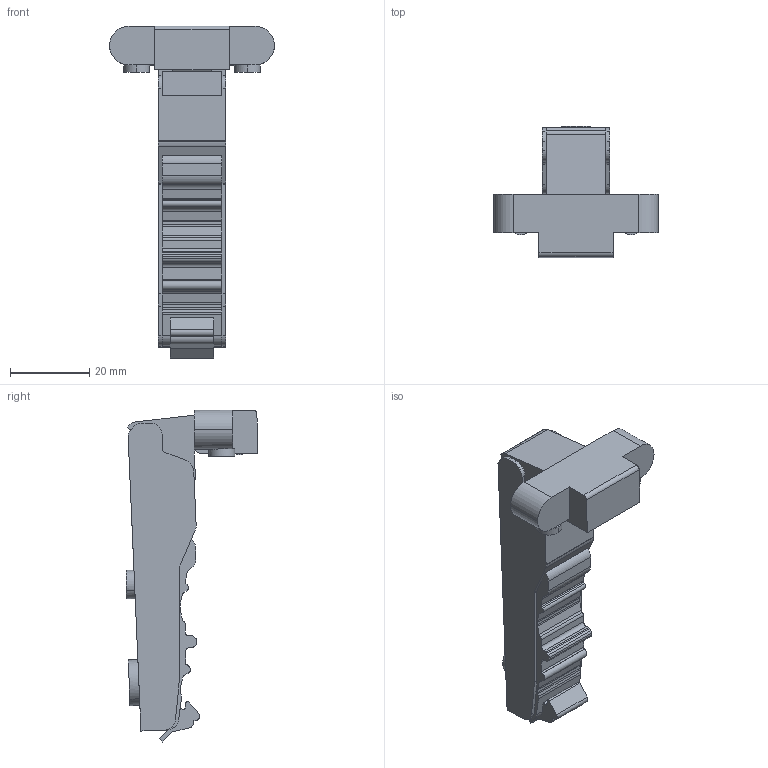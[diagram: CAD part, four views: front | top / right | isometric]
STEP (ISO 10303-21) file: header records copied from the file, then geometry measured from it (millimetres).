
FILE_DESCRIPTION (( 'STEP AP203' ), '1' );
FILE_NAME ('C82A678FA-DTC 3D close.STEP', '2024-09-09T06:24:50', ( '微软用户' ), ( '微软中国' ), 'SwSTEP 2.0', 'SolidWorks 2021', '' );
FILE_SCHEMA (( 'CONFIG_CONTROL_DESIGN' ));
Length unit declared in the file: millimetre
Products named in the file (1): C82A678FA-DTC 3D close
Bounding box: 41.6 x 33.27 x 83.89 mm (x, y, z)
Volume: 24288 mm3; surface area: 7741.6 mm2
Topology: 1 solids, 1 shells, 145 faces, 415 edges, 275 vertices
Faces by surface type: plane 78, cylinder 66, bspline 1
Entity records: 5063 total; most frequent: CARTESIAN_POINT 1085, DIRECTION 833, ORIENTED_EDGE 830, EDGE_CURVE 415, AXIS2_PLACEMENT_3D 284, VERTEX_POINT 275, VECTOR 265, LINE 265
